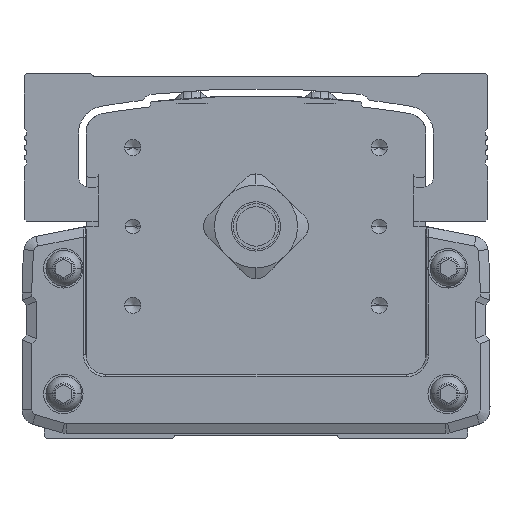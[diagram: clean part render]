
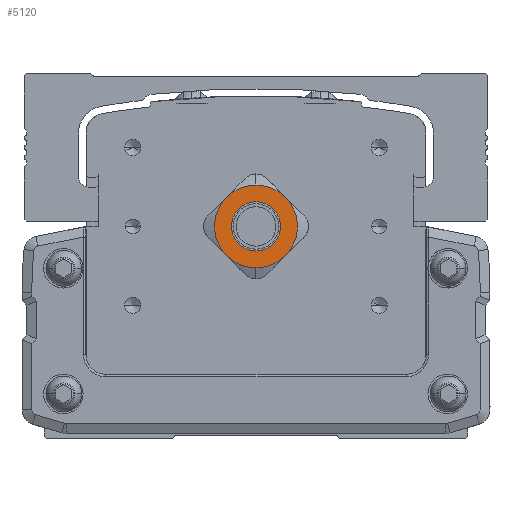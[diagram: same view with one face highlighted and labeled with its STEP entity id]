
A CAD part, front view. The second image highlights one B-rep face of the part: STEP entity #5120.
In plain terms, the highlighted planar face has unit normal (0, -1, 0).
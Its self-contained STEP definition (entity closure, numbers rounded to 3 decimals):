
#5120=ADVANCED_FACE('',(#10526,#10527),#10528,.F.);
#10526=FACE_OUTER_BOUND('',#17652,.T.);
#10527=FACE_BOUND('',#17653,.T.);
#10528=PLANE('',#17654);
#17652=EDGE_LOOP('',(#32918,#32919,#32920,#32921,#32922,#32923));
#17653=EDGE_LOOP('',(#32924,#32925));
#17654=AXIS2_PLACEMENT_3D('',#32926,#32927,#32928);
#32918=ORIENTED_EDGE('',*,*,#38683,.T.);
#32919=ORIENTED_EDGE('',*,*,#40409,.T.);
#32920=ORIENTED_EDGE('',*,*,#39062,.T.);
#32921=ORIENTED_EDGE('',*,*,#37775,.T.);
#32922=ORIENTED_EDGE('',*,*,#41168,.T.);
#32923=ORIENTED_EDGE('',*,*,#41169,.T.);
#32924=ORIENTED_EDGE('',*,*,#37238,.F.);
#32925=ORIENTED_EDGE('',*,*,#35852,.F.);
#32926=CARTESIAN_POINT('',(0.,-86.468,0.127));
#32927=DIRECTION('',(0.,1.0,0.));
#32928=DIRECTION('',(0.,0.0,1.0));
#35852=EDGE_CURVE('',#43180,#43182,#43183,.T.);
#37238=EDGE_CURVE('',#43182,#43180,#45484,.T.);
#37775=EDGE_CURVE('',#43673,#46318,#46320,.T.);
#38683=EDGE_CURVE('',#44673,#47650,#47652,.T.);
#39062=EDGE_CURVE('',#48215,#43673,#48218,.T.);
#40409=EDGE_CURVE('',#47650,#48215,#49910,.T.);
#41168=EDGE_CURVE('',#46318,#50770,#50771,.T.);
#41169=EDGE_CURVE('',#50770,#44673,#50772,.T.);
#43180=VERTEX_POINT('',#53613);
#43182=VERTEX_POINT('',#53616);
#43183=CIRCLE('',#53617,4.625);
#43673=VERTEX_POINT('',#54411);
#44673=VERTEX_POINT('',#56119);
#45484=CIRCLE('',#57498,4.625);
#46318=VERTEX_POINT('',#58723);
#46320=CIRCLE('',#58736,8.413);
#47650=VERTEX_POINT('',#60936);
#47652=CIRCLE('',#60949,8.413);
#48215=VERTEX_POINT('',#61742);
#48218=CIRCLE('',#61763,8.413);
#49910=CIRCLE('',#64139,8.413);
#50770=VERTEX_POINT('',#65283);
#50771=CIRCLE('',#65284,8.413);
#50772=CIRCLE('',#65285,8.413);
#53613=CARTESIAN_POINT('',(0.,-86.468,-4.625));
#53616=CARTESIAN_POINT('',(0.,-86.468,4.625));
#53617=AXIS2_PLACEMENT_3D('',#66652,#66653,#66654);
#54411=CARTESIAN_POINT('',(-5.949,-86.468,5.949));
#56119=CARTESIAN_POINT('',(5.949,-86.468,-5.949));
#57498=AXIS2_PLACEMENT_3D('',#68251,#68252,#68253);
#58723=CARTESIAN_POINT('',(-5.949,-86.468,-5.949));
#58736=AXIS2_PLACEMENT_3D('',#68938,#68939,#68940);
#60936=CARTESIAN_POINT('',(5.949,-86.468,5.949));
#60949=AXIS2_PLACEMENT_3D('',#69957,#69958,#69959);
#61742=CARTESIAN_POINT('',(0.,-86.468,8.412));
#61763=AXIS2_PLACEMENT_3D('',#70519,#70520,#70521);
#64139=AXIS2_PLACEMENT_3D('',#71950,#71951,#71952);
#65283=CARTESIAN_POINT('',(0.,-86.468,-8.413));
#65284=AXIS2_PLACEMENT_3D('',#72622,#72623,#72624);
#65285=AXIS2_PLACEMENT_3D('',#72625,#72626,#72627);
#66652=CARTESIAN_POINT('',(0.,-86.468,0.));
#66653=DIRECTION('',(0.,-1.0,0.));
#66654=DIRECTION('',(0.,0.0,-1.0));
#68251=CARTESIAN_POINT('',(0.,-86.468,0.));
#68252=DIRECTION('',(0.,-1.0,0.));
#68253=DIRECTION('',(0.,0.0,-1.0));
#68938=CARTESIAN_POINT('',(0.,-86.468,0.));
#68939=DIRECTION('',(0.,-1.0,0.));
#68940=DIRECTION('',(0.,0.0,1.0));
#69957=CARTESIAN_POINT('',(0.,-86.468,0.));
#69958=DIRECTION('',(0.,-1.0,0.));
#69959=DIRECTION('',(0.,0.0,1.0));
#70519=CARTESIAN_POINT('',(0.,-86.468,0.));
#70520=DIRECTION('',(0.,-1.0,0.));
#70521=DIRECTION('',(0.,0.0,1.0));
#71950=CARTESIAN_POINT('',(0.,-86.468,0.));
#71951=DIRECTION('',(0.,-1.0,0.));
#71952=DIRECTION('',(0.,0.0,1.0));
#72622=CARTESIAN_POINT('',(0.,-86.468,0.));
#72623=DIRECTION('',(0.,-1.0,0.));
#72624=DIRECTION('',(0.,0.0,1.0));
#72625=CARTESIAN_POINT('',(0.,-86.468,0.));
#72626=DIRECTION('',(0.,-1.0,0.));
#72627=DIRECTION('',(0.,0.0,1.0));
